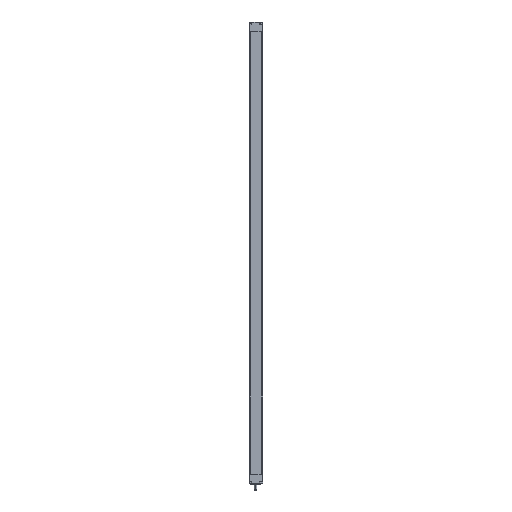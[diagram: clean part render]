
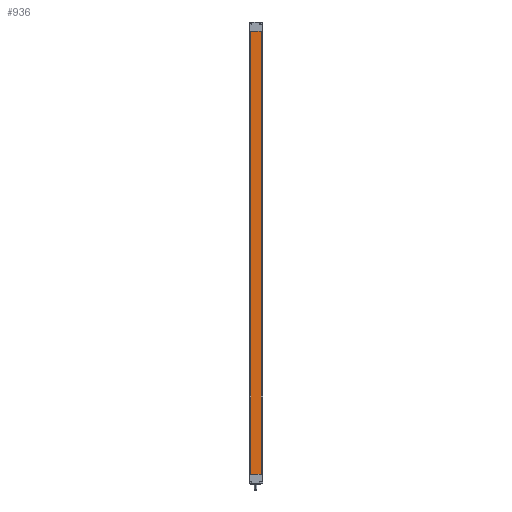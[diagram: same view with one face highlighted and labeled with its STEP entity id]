
A CAD part, left-side view. The second image highlights one B-rep face of the part: STEP entity #936.
In plain terms, the highlighted planar face has unit normal (-1, 0, 0).
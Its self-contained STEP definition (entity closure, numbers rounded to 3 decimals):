
#664 = VERTEX_POINT ( 'NONE', #4279 ) ;
#677 = EDGE_CURVE ( 'NONE', #664, #692, #4312, .T. ) ;
#692 = VERTEX_POINT ( 'NONE', #4358 ) ;
#898 = ORIENTED_EDGE ( 'NONE', *, *, #9394, .T. ) ;
#911 = ORIENTED_EDGE ( 'NONE', *, *, #677, .F. ) ;
#913 = ORIENTED_EDGE ( 'NONE', *, *, #937, .F. ) ;
#914 = EDGE_LOOP ( 'NONE', ( #913, #911, #931, #898 ) ) ;
#921 = EDGE_CURVE ( 'NONE', #664, #9342, #4719, .T. ) ;
#931 = ORIENTED_EDGE ( 'NONE', *, *, #921, .T. ) ;
#936 = ADVANCED_FACE ( 'NONE', ( #4193 ), #3439, .F. ) ;
#937 = EDGE_CURVE ( 'NONE', #692, #9411, #4746, .T. ) ;
#3439 = PLANE ( 'NONE',  #3695 ) ;
#3443 = DIRECTION ( 'NONE',  ( 0., 0., -1. ) ) ;
#3695 = AXIS2_PLACEMENT_3D ( 'NONE', #3702, #3968, #3973 ) ;
#3702 = CARTESIAN_POINT ( 'NONE',  ( -75., -36., 2120. ) ) ;
#3968 = DIRECTION ( 'NONE',  ( 1., 0., 0. ) ) ;
#3973 = DIRECTION ( 'NONE',  ( 0., 0., -1. ) ) ;
#4193 = FACE_OUTER_BOUND ( 'NONE', #914, .T. ) ;
#4279 = CARTESIAN_POINT ( 'NONE',  ( -75., 23.2, 2120. ) ) ;
#4309 = DIRECTION ( 'NONE',  ( 0., -1., 0. ) ) ;
#4310 = VECTOR ( 'NONE', #4309, 1000. ) ;
#4311 = CARTESIAN_POINT ( 'NONE',  ( -75., -36., 2120. ) ) ;
#4312 = LINE ( 'NONE', #4311, #4310 ) ;
#4358 = CARTESIAN_POINT ( 'NONE',  ( -75., -26.9, 2120. ) ) ;
#4718 = CARTESIAN_POINT ( 'NONE',  ( -75., 23.2, 2120. ) ) ;
#4719 = LINE ( 'NONE', #4718, #4757 ) ;
#4722 = VECTOR ( 'NONE', #3443, 1000. ) ;
#4723 = CARTESIAN_POINT ( 'NONE',  ( -75., -26.9, 2120. ) ) ;
#4746 = LINE ( 'NONE', #4723, #4722 ) ;
#4756 = DIRECTION ( 'NONE',  ( 0., 0., -1. ) ) ;
#4757 = VECTOR ( 'NONE', #4756, 1000. ) ;
#8841 = CARTESIAN_POINT ( 'NONE',  ( -75., 23.2, 0. ) ) ;
#8878 = DIRECTION ( 'NONE',  ( 0., -1., 0. ) ) ;
#8879 = VECTOR ( 'NONE', #8878, 1000. ) ;
#8880 = CARTESIAN_POINT ( 'NONE',  ( -75., -36., 0. ) ) ;
#8888 = LINE ( 'NONE', #8880, #8879 ) ;
#8957 = CARTESIAN_POINT ( 'NONE',  ( -75., -26.9, 0. ) ) ;
#9342 = VERTEX_POINT ( 'NONE', #8841 ) ;
#9394 = EDGE_CURVE ( 'NONE', #9342, #9411, #8888, .T. ) ;
#9411 = VERTEX_POINT ( 'NONE', #8957 ) ;
